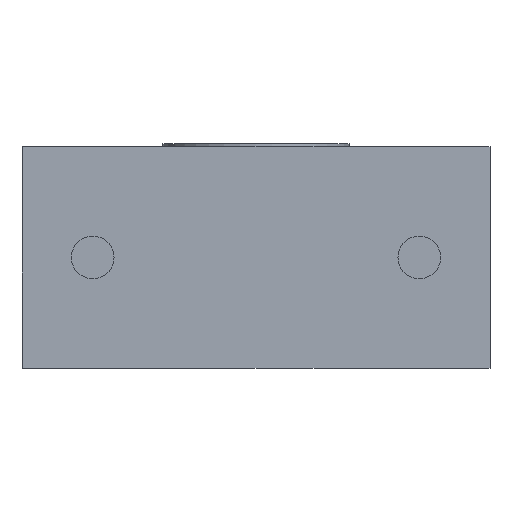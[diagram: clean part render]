
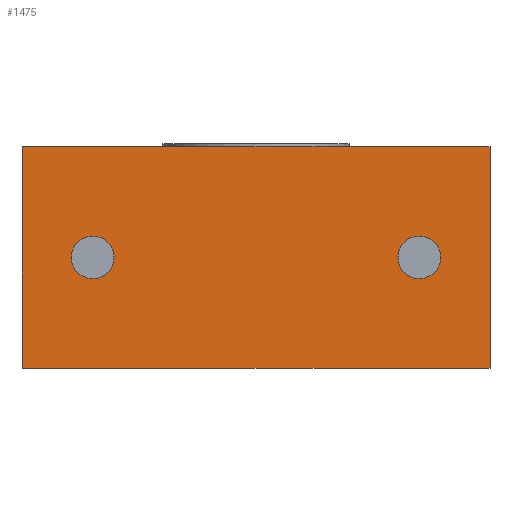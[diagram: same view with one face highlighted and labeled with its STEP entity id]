
A CAD part, front view. The second image highlights one B-rep face of the part: STEP entity #1475.
In plain terms, the highlighted planar face has unit normal (0, -1, 0).
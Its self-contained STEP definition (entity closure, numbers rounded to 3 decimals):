
#92=FACE_BOUND('',#265,.T.);
#93=FACE_BOUND('',#266,.T.);
#121=PLANE('',#1688);
#175=FACE_OUTER_BOUND('',#264,.T.);
#264=EDGE_LOOP('',(#1082,#1083,#1084,#1085));
#265=EDGE_LOOP('',(#1086,#1087));
#266=EDGE_LOOP('',(#1088,#1089));
#366=LINE('',#2426,#446);
#373=LINE('',#2442,#453);
#382=LINE('',#2477,#462);
#383=LINE('',#2479,#463);
#446=VECTOR('',#1907,10.);
#453=VECTOR('',#1920,10.);
#462=VECTOR('',#1963,10.);
#463=VECTOR('',#1966,10.);
#518=CIRCLE('',#1635,3.324);
#519=CIRCLE('',#1636,3.324);
#522=CIRCLE('',#1641,3.324);
#523=CIRCLE('',#1642,3.324);
#606=VERTEX_POINT('',#2355);
#607=VERTEX_POINT('',#2356);
#610=VERTEX_POINT('',#2366);
#611=VERTEX_POINT('',#2367);
#633=VERTEX_POINT('',#2423);
#634=VERTEX_POINT('',#2425);
#639=VERTEX_POINT('',#2439);
#640=VERTEX_POINT('',#2441);
#753=EDGE_CURVE('',#606,#607,#518,.T.);
#754=EDGE_CURVE('',#607,#606,#519,.T.);
#758=EDGE_CURVE('',#610,#611,#522,.T.);
#759=EDGE_CURVE('',#611,#610,#523,.T.);
#786=EDGE_CURVE('',#634,#633,#366,.T.);
#794=EDGE_CURVE('',#640,#639,#373,.T.);
#813=EDGE_CURVE('',#633,#640,#382,.T.);
#814=EDGE_CURVE('',#639,#634,#383,.T.);
#1082=ORIENTED_EDGE('',*,*,#813,.T.);
#1083=ORIENTED_EDGE('',*,*,#794,.T.);
#1084=ORIENTED_EDGE('',*,*,#814,.T.);
#1085=ORIENTED_EDGE('',*,*,#786,.T.);
#1086=ORIENTED_EDGE('',*,*,#753,.T.);
#1087=ORIENTED_EDGE('',*,*,#754,.T.);
#1088=ORIENTED_EDGE('',*,*,#758,.T.);
#1089=ORIENTED_EDGE('',*,*,#759,.T.);
#1475=ADVANCED_FACE('',(#175,#92,#93),#121,.F.);
#1635=AXIS2_PLACEMENT_3D('',#2357,#1833,#1834);
#1636=AXIS2_PLACEMENT_3D('',#2358,#1835,#1836);
#1641=AXIS2_PLACEMENT_3D('',#2368,#1846,#1847);
#1642=AXIS2_PLACEMENT_3D('',#2369,#1848,#1849);
#1688=AXIS2_PLACEMENT_3D('',#2480,#1967,#1968);
#1833=DIRECTION('center_axis',(0.,1.,0.));
#1834=DIRECTION('ref_axis',(-1.,0.,0.));
#1835=DIRECTION('center_axis',(0.,1.,0.));
#1836=DIRECTION('ref_axis',(-1.,0.,0.));
#1846=DIRECTION('center_axis',(0.,1.,0.));
#1847=DIRECTION('ref_axis',(-1.,0.,0.));
#1848=DIRECTION('center_axis',(0.,1.,0.));
#1849=DIRECTION('ref_axis',(-1.,0.,0.));
#1907=DIRECTION('',(1.,0.,0.));
#1920=DIRECTION('',(-1.,0.,0.));
#1963=DIRECTION('',(0.,0.,1.));
#1966=DIRECTION('',(0.,0.,-1.));
#1967=DIRECTION('center_axis',(0.,1.,0.));
#1968=DIRECTION('ref_axis',(0.,0.,1.));
#2355=CARTESIAN_POINT('',(-28.724,-33.3,0.));
#2356=CARTESIAN_POINT('',(-22.077,-33.3,0.));
#2357=CARTESIAN_POINT('Origin',(-25.4,-33.3,0.));
#2358=CARTESIAN_POINT('Origin',(-25.4,-33.3,0.));
#2366=CARTESIAN_POINT('',(22.077,-33.3,0.));
#2367=CARTESIAN_POINT('',(28.724,-33.3,0.));
#2368=CARTESIAN_POINT('Origin',(25.4,-33.3,0.));
#2369=CARTESIAN_POINT('Origin',(25.4,-33.3,0.));
#2423=CARTESIAN_POINT('',(36.4,-33.3,-17.25));
#2425=CARTESIAN_POINT('',(-36.4,-33.3,-17.25));
#2426=CARTESIAN_POINT('',(18.2,-33.3,-17.25));
#2439=CARTESIAN_POINT('',(-36.4,-33.3,17.25));
#2441=CARTESIAN_POINT('',(36.4,-33.3,17.25));
#2442=CARTESIAN_POINT('',(-18.2,-33.3,17.25));
#2477=CARTESIAN_POINT('',(36.4,-33.3,8.625));
#2479=CARTESIAN_POINT('',(-36.4,-33.3,-8.625));
#2480=CARTESIAN_POINT('Origin',(0.,-33.3,0.));
